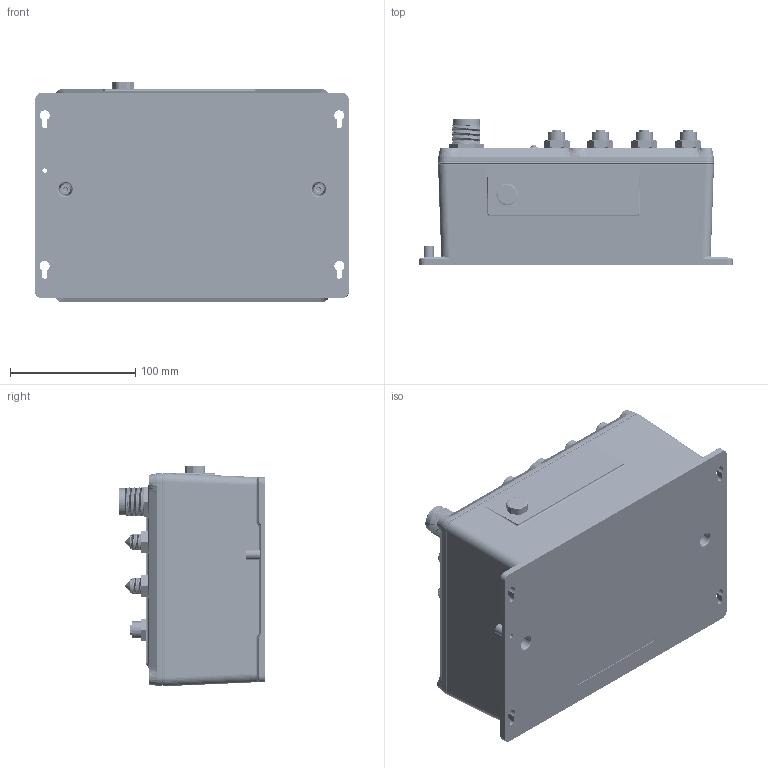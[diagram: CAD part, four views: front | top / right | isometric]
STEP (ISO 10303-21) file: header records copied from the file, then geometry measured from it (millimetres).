
FILE_DESCRIPTION((''),'2;1');
FILE_NAME('TN-5516A-8POE','2014-12-04T',('Vincent_Huang'),(''),'PRO/ENGINEER BY PARAMETRIC TECHNOLOGY CORPORATION, 2004320','PRO/ENGINEER BY PARAMETRIC TECHNOLOGY CORPORATION, 2004320','');
FILE_SCHEMA(('CONFIG_CONTROL_DESIGN'));
Products named in the file (1): TN-5516A-8POE
Bounding box: 250 x 116.9 x 175.8 mm (x, y, z)
Surface area: 664717.7 mm2 (no closed solid volume)
Topology: 0 solids, 209 shells, 30196 faces, 80639 edges, 50837 vertices
Faces by surface type: plane 17988, cylinder 7491, bspline 1799, cone 1502, extrusion 600, torus 540, sphere 276
Entity records: 1065788 total; most frequent: CARTESIAN_POINT 333239, ORIENTED_EDGE 160262, DIRECTION 139632, EDGE_CURVE 80310, VECTOR 53208, LINE 52608, VERTEX_POINT 50835, AXIS2_PLACEMENT_3D 43212
